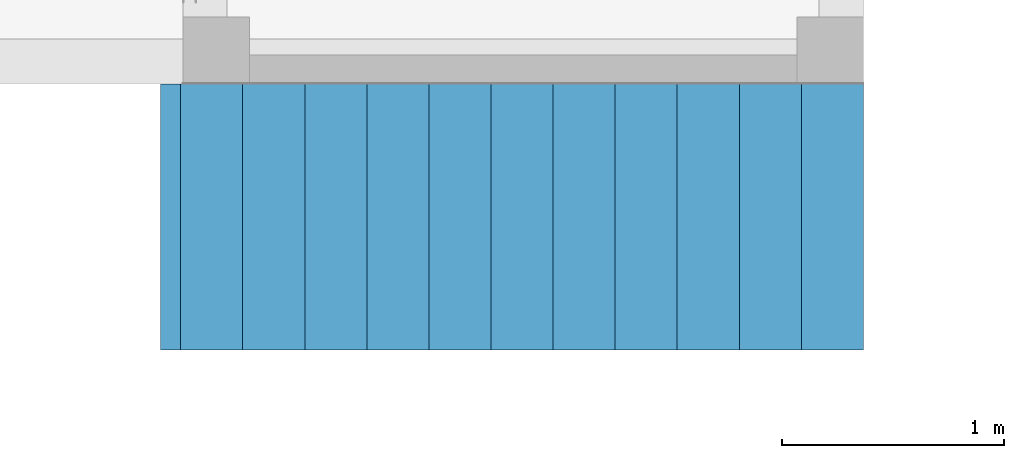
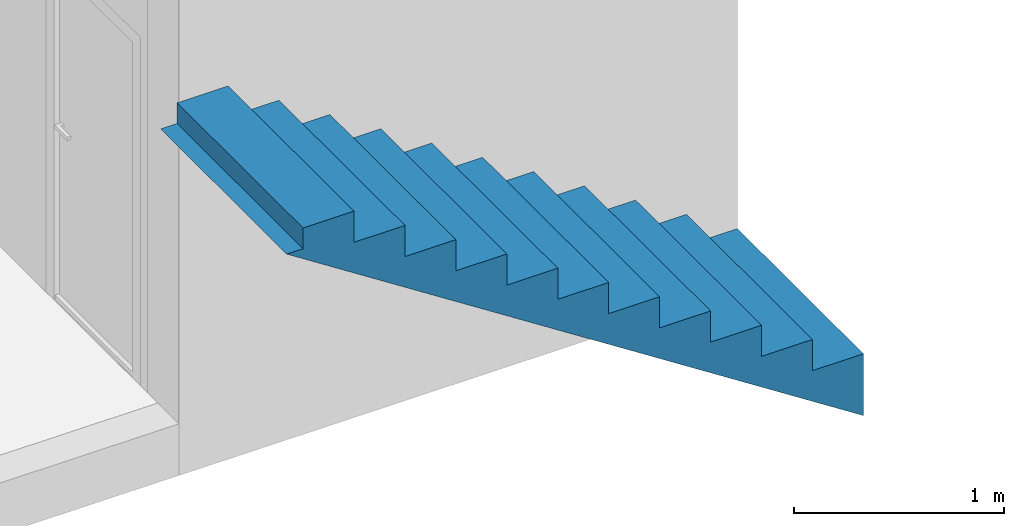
# One storey, part 9 of 10: 1 stair flight.
"""IFC4X3_ADD2 building model written with IfcOpenShell, lengths in millimetres."""

from ifc_helpers import new_model, entity, si_unit, converted_unit, frame, origin_with_axes, origin_2d_with_axis, place, context, subcontext, project, spatial, polygons, source, transform, mapped, type_object, type_shapes, element, save


model = new_model("IFC4X3_ADD2")

# Units and contexts
model_context = context("Model", 3, precision=1e-05, world=origin_with_axes())
plan_context = context("Plan", 2, precision=1e-05, world=origin_2d_with_axis())
body_context = subcontext(model_context, "Body", "Model", "MODEL_VIEW")
ifc_project = project(units=[si_unit("VOLUMEUNIT", "CUBIC_METRE"), si_unit("LENGTHUNIT", "METRE", prefix="MILLI"), converted_unit("PLANEANGLEUNIT", "degree", entity("IfcReal", 0.0174532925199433), si_unit("PLANEANGLEUNIT", "RADIAN"), dimensions=[0, 0, 0, 0, 0, 0, 0]), si_unit("AREAUNIT", "SQUARE_METRE")], contexts=[model_context, plan_context])

# Site, building, storey
site_placement = place(None, origin_with_axes())
site = spatial("IfcSite", under=ifc_project, at=site_placement, Name="My Site")
building_placement = place(site_placement, origin_with_axes())
building = spatial("IfcBuilding", under=site, at=building_placement, Name="My Building")
storey_placement = place(building_placement, origin_with_axes())
storey = spatial("IfcBuildingStorey", under=building, at=storey_placement, Name="Lantai 1")

# Stair flight
stair_flight_type = type_object("IfcStairFlightType", Name="stair", PredefinedType="STRAIGHT")
shared_shape = source(origin_with_axes(), body_context, "Body", "Tessellation", [
    polygons([(0.0, 0.0, 0.0), (0.0, 0.0, 180.909088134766), (280.000030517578, 0.0, 180.909088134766), (280.000030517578, 0.0, 361.818176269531), (560.000061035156, 0.0, 361.818176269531), (560.000061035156, 0.0, 542.727294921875), (840.000061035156, 0.0, 542.727294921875), (840.000061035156, 0.0, 723.636352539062), (1120.00012207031, 0.0, 723.636352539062), (1120.00012207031, 0.0, 904.545471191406), (1400.0, 0.0, 904.545471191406), (1400.0, 0.0, 1085.45458984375), (1680.0, 0.0, 1085.45458984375), (1680.0, 0.0, 1266.36352539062), (1960.0, 0.0, 1266.36352539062), (1960.0, 0.0, 1447.27270507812), (2240.0, 0.0, 1447.27270507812), (2240.0, 0.0, 1628.18188476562), (2519.99975585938, 0.0, 1628.18188476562), (2519.99975585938, 0.0, 1809.09106445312), (2799.99975585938, 0.0, 1809.09106445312), (2799.99975585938, 0.0, 1990.00012207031), (3079.99975585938, 0.0, 1990.00012207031), (3079.99975585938, 0.0, 1870.00012207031), (3170.6748046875, 0.0, 1870.00012207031), (0.0, 0.0, -178.585067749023), (0.0, 1200.0, 180.909088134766), (280.000030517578, 1200.0, 180.909088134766), (280.000030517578, 1200.0, 361.818176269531), (560.000061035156, 1200.0, 361.818176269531), (560.000061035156, 1200.0, 542.727294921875), (840.000061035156, 1200.0, 542.727294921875), (840.000061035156, 1200.0, 723.636352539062), (1120.00012207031, 1200.0, 723.636352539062), (1120.00012207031, 1200.0, 904.545471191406), (1400.0, 1200.0, 904.545471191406), (1400.0, 1200.0, 1085.45458984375), (1680.0, 1200.0, 1085.45458984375), (1680.0, 1200.0, 1266.36352539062), (1960.0, 1200.0, 1266.36352539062), (1960.0, 1200.0, 1447.27270507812), (2240.0, 1200.0, 1447.27270507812), (2240.0, 1200.0, 1628.18188476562), (2519.99975585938, 1200.0, 1628.18188476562), (2519.99975585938, 1200.0, 1809.09106445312), (2799.99975585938, 1200.0, 1809.09106445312), (2799.99975585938, 1200.0, 1990.00012207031), (3079.99975585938, 1200.0, 1990.00012207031), (3079.99975585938, 1200.0, 1870.00012207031), (3170.6748046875, 1200.0, 1870.00012207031), (0.0, 1200.0, -178.585067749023), (0.0, 1200.0, 0.0)], [[[2, 1, 26, 25, 24, 23, 22, 21, 20, 19, 18, 17, 16, 15, 14, 13, 12, 11, 10, 9, 8, 7, 6, 5, 4, 3]], [[27, 28, 29, 30, 31, 32, 33, 34, 35, 36, 37, 38, 39, 40, 41, 42, 43, 44, 45, 46, 47, 48, 49, 50, 51, 52]], [[13, 14, 39, 38]], [[6, 7, 32, 31]], [[21, 22, 47, 46]], [[14, 15, 40, 39]], [[7, 8, 33, 32]], [[22, 23, 48, 47]], [[15, 16, 41, 40]], [[8, 9, 34, 33]], [[23, 24, 49, 48]], [[1, 2, 27, 52]], [[16, 17, 42, 41]], [[9, 10, 35, 34]], [[24, 25, 50, 49]], [[2, 3, 28, 27]], [[17, 18, 43, 42]], [[10, 11, 36, 35]], [[26, 1, 52, 51]], [[3, 4, 29, 28]], [[18, 19, 44, 43]], [[11, 12, 37, 36]], [[25, 26, 51, 50]], [[4, 5, 30, 29]], [[19, 20, 45, 44]], [[12, 13, 38, 37]], [[5, 6, 31, 30]], [[20, 21, 46, 45]]], closed=True),
])
type_shapes(stair_flight_type, [shared_shape])
stair_flight_placement = place(storey_placement, frame((11590.0001525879, -151.000007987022, -120.000004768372), z_axis=(0.0, 0.0, 1.0), x_axis=(-0.999999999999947, -3.25841369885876e-07, 0.0)))
element("IfcStairFlight", 1, at=stair_flight_placement, inside=storey, type_object=stair_flight_type, Name="StairFlight", NumberOfRisers=11, NumberOfTreads=10, PredefinedType="STRAIGHT", RiserHeight=180.909091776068, TreadLength=150.000005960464, context=body_context, shape_type="MappedRepresentation", body=[
    mapped(shared_shape, transform((0.0, 0.0, 0.0), x_axis=(1.0, 0.0, 0.0), y_axis=(0.0, 1.0, 0.0), z_axis=(0.0, 0.0, 1.0), scale=1.0)),
])

save(model, "model.ifc")
